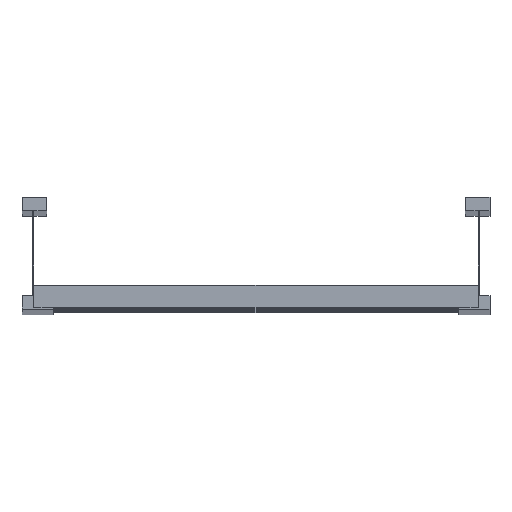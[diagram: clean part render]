
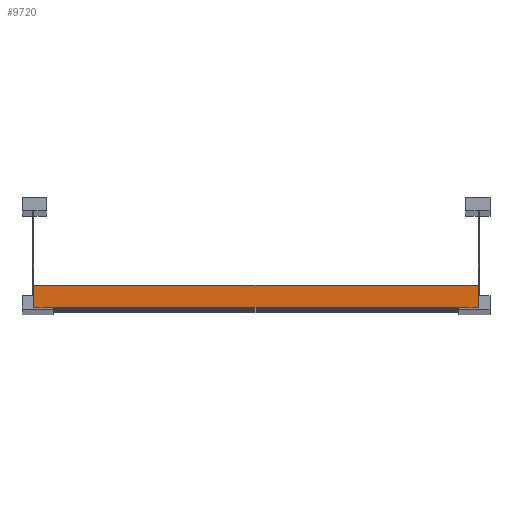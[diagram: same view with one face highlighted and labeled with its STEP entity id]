
A CAD part, top view. The second image highlights one B-rep face of the part: STEP entity #9720.
In plain terms, the highlighted planar face has unit normal (0, 0, 1).
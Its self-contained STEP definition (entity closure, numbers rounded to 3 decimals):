
#194 = VERTEX_POINT ( 'NONE', #1723 ) ;
#513 = LINE ( 'NONE', #6890, #4303 ) ;
#962 = VERTEX_POINT ( 'NONE', #8740 ) ;
#1293 = DIRECTION ( 'NONE',  ( 0., -1., 0. ) ) ;
#1460 = DIRECTION ( 'NONE',  ( -1., 0., 0. ) ) ;
#1603 = EDGE_CURVE ( 'NONE', #3095, #194, #513, .T. ) ;
#1678 = EDGE_CURVE ( 'NONE', #194, #962, #3355, .T. ) ;
#1723 = CARTESIAN_POINT ( 'NONE',  ( -198.5, 20., 20.25 ) ) ;
#1801 = DIRECTION ( 'NONE',  ( 0., 1., 0. ) ) ;
#1932 = CARTESIAN_POINT ( 'NONE',  ( 198.5, 20., 20.25 ) ) ;
#2239 = EDGE_LOOP ( 'NONE', ( #8974, #7712, #11405, #4484 ) ) ;
#3095 = VERTEX_POINT ( 'NONE', #1932 ) ;
#3105 = CARTESIAN_POINT ( 'NONE',  ( 198.5, 0., 20.25 ) ) ;
#3355 = LINE ( 'NONE', #6779, #3538 ) ;
#3538 = VECTOR ( 'NONE', #9523, 1000. ) ;
#3574 = FACE_OUTER_BOUND ( 'NONE', #2239, .T. ) ;
#4274 = AXIS2_PLACEMENT_3D ( 'NONE', #6282, #9855, #1801 ) ;
#4303 = VECTOR ( 'NONE', #1460, 1000. ) ;
#4484 = ORIENTED_EDGE ( 'NONE', *, *, #1603, .T. ) ;
#4649 = VERTEX_POINT ( 'NONE', #3105 ) ;
#5300 = EDGE_CURVE ( 'NONE', #3095, #4649, #8299, .T. ) ;
#6025 = CARTESIAN_POINT ( 'NONE',  ( 198.5, 0., 20.25 ) ) ;
#6282 = CARTESIAN_POINT ( 'NONE',  ( 198.5, 20., 20.25 ) ) ;
#6486 = CARTESIAN_POINT ( 'NONE',  ( 198.5, 20., 20.25 ) ) ;
#6516 = VECTOR ( 'NONE', #6844, 1000. ) ;
#6779 = CARTESIAN_POINT ( 'NONE',  ( -198.5, 20., 20.25 ) ) ;
#6844 = DIRECTION ( 'NONE',  ( -1., 0., 0. ) ) ;
#6890 = CARTESIAN_POINT ( 'NONE',  ( 198.5, 20., 20.25 ) ) ;
#7712 = ORIENTED_EDGE ( 'NONE', *, *, #8730, .F. ) ;
#8299 = LINE ( 'NONE', #6486, #9113 ) ;
#8730 = EDGE_CURVE ( 'NONE', #4649, #962, #9549, .T. ) ;
#8740 = CARTESIAN_POINT ( 'NONE',  ( -198.5, 0., 20.25 ) ) ;
#8974 = ORIENTED_EDGE ( 'NONE', *, *, #1678, .T. ) ;
#9113 = VECTOR ( 'NONE', #1293, 1000. ) ;
#9523 = DIRECTION ( 'NONE',  ( 0., -1., 0. ) ) ;
#9549 = LINE ( 'NONE', #6025, #6516 ) ;
#9720 = ADVANCED_FACE ( 'NONE', ( #3574 ), #10742, .F. ) ;
#9855 = DIRECTION ( 'NONE',  ( 0., 0., -1. ) ) ;
#10742 = PLANE ( 'NONE',  #4274 ) ;
#11405 = ORIENTED_EDGE ( 'NONE', *, *, #5300, .F. ) ;
